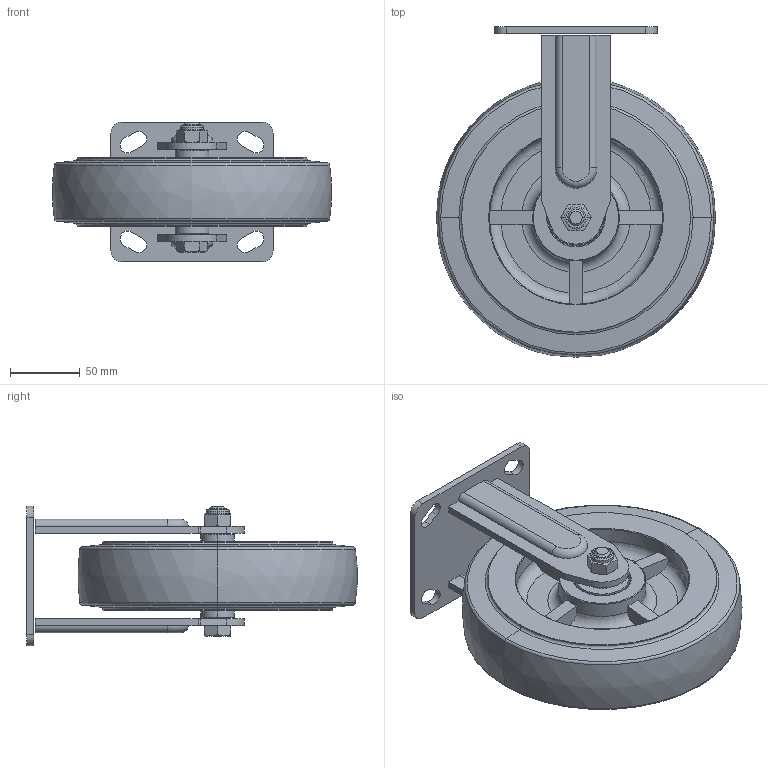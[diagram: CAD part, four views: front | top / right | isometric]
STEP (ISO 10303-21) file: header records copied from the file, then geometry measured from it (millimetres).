
FILE_DESCRIPTION((''),'2;1');
FILE_NAME('S7578-301_ASM','2026-07-21T',('Lenovo'),(''),'PRO/ENGINEER BY PARAMETRIC TECHNOLOGY CORPORATION, 2010280','PRO/ENGINEER BY PARAMETRIC TECHNOLOGY CORPORATION, 2010280','');
FILE_SCHEMA(('CONFIG_CONTROL_DESIGN'));
Length unit declared in the file: millimetre
Products named in the file (10): S7500-200; S7508-351; 738-986; 6203; 700-67; 700-54; 738-86_ASM; 700-33; 700-34; S7578-301_ASM
Assembly tree (11 placements, depth 3):
  S7578-301_ASM
    S7500-200
    S7508-351
    738-86_ASM
      738-986
      6203  x2
      700-67  x2
      700-54
    700-33
    700-34
Bounding box: 199.68 x 236.34 x 100 mm (x, y, z)
Volume: 1302738.8 mm3; surface area: 205406.1 mm2
Topology: 37 solids, 37 shells, 368 faces, 902 edges, 522 vertices
Faces by surface type: plane 119, cylinder 97, torus 74, sphere 48, cone 28, bspline 2
Entity records: 9371 total; most frequent: CARTESIAN_POINT 2087, DIRECTION 1600, ORIENTED_EDGE 1396, EDGE_CURVE 698, AXIS2_PLACEMENT_3D 655, VERTEX_POINT 448, EDGE_LOOP 334, CIRCLE 328
